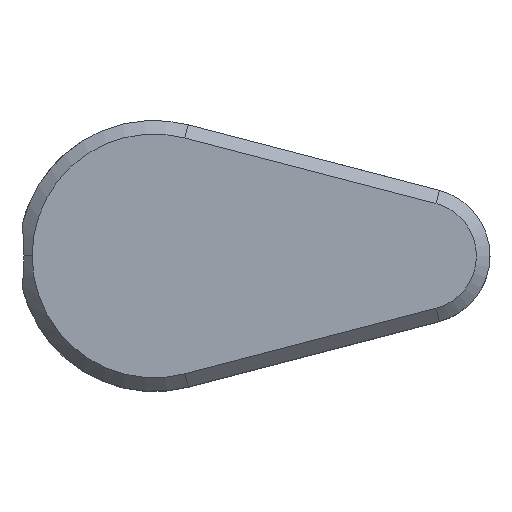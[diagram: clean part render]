
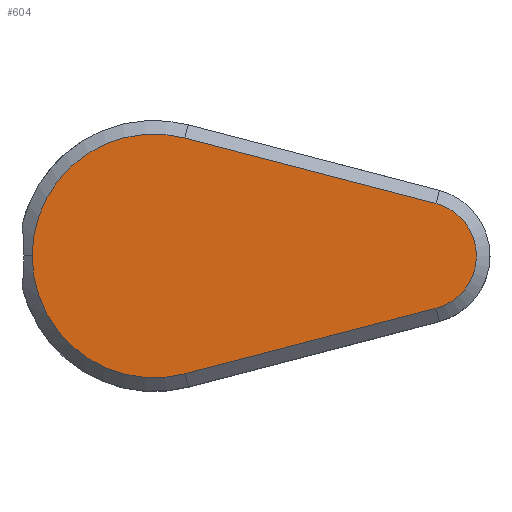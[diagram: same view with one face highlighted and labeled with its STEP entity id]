
A CAD part, top view. The second image highlights one B-rep face of the part: STEP entity #604.
In plain terms, the highlighted planar face has unit normal (0, 0, 1).
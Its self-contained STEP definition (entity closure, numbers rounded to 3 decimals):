
#75 = CIRCLE ( 'NONE', #257, 2. ) ;
#89 = LINE ( 'NONE', #468, #682 ) ;
#92 = VECTOR ( 'NONE', #708, 1000. ) ;
#100 = ORIENTED_EDGE ( 'NONE', *, *, #161, .T. ) ;
#122 = DIRECTION ( 'NONE',  ( 1., 0., 0. ) ) ;
#161 = EDGE_CURVE ( 'NONE', #908, #205, #1073, .T. ) ;
#201 = EDGE_LOOP ( 'NONE', ( #956, #1032, #865, #100, #869 ) ) ;
#202 = DIRECTION ( 'NONE',  ( 0., 0., 1. ) ) ;
#205 = VERTEX_POINT ( 'NONE', #904 ) ;
#256 = CARTESIAN_POINT ( 'NONE',  ( 9.9, 0., 7. ) ) ;
#257 = AXIS2_PLACEMENT_3D ( 'NONE', #256, #1208, #367 ) ;
#317 = CIRCLE ( 'NONE', #1013, 4.5 ) ;
#320 = DIRECTION ( 'NONE',  ( 0., 0., 1. ) ) ;
#367 = DIRECTION ( 'NONE',  ( 1., 0., 0. ) ) ;
#396 = DIRECTION ( 'NONE',  ( 1., 0., 0. ) ) ;
#447 = EDGE_CURVE ( 'NONE', #1101, #483, #75, .T. ) ;
#468 = CARTESIAN_POINT ( 'NONE',  ( 1.136, 4.354, 7. ) ) ;
#483 = VERTEX_POINT ( 'NONE', #654 ) ;
#495 = EDGE_CURVE ( 'NONE', #483, #576, #89, .T. ) ;
#543 = AXIS2_PLACEMENT_3D ( 'NONE', #1170, #320, #396 ) ;
#552 = EDGE_CURVE ( 'NONE', #205, #1101, #1067, .T. ) ;
#576 = VERTEX_POINT ( 'NONE', #1079 ) ;
#604 = ADVANCED_FACE ( 'NONE', ( #803 ), #1177, .T. ) ;
#613 = CARTESIAN_POINT ( 'NONE',  ( 10.405, -1.935, 7. ) ) ;
#635 = DIRECTION ( 'NONE',  ( 0., 0., 1. ) ) ;
#645 = CARTESIAN_POINT ( 'NONE',  ( 0., 0., 7. ) ) ;
#651 = EDGE_CURVE ( 'NONE', #576, #908, #317, .T. ) ;
#654 = CARTESIAN_POINT ( 'NONE',  ( 10.405, 1.935, 7. ) ) ;
#682 = VECTOR ( 'NONE', #958, 1000. ) ;
#708 = DIRECTION ( 'NONE',  ( 0.968, 0.253, 0. ) ) ;
#777 = AXIS2_PLACEMENT_3D ( 'NONE', #645, #635, #850 ) ;
#803 = FACE_OUTER_BOUND ( 'NONE', #201, .T. ) ;
#850 = DIRECTION ( 'NONE',  ( 1., 0., 0. ) ) ;
#865 = ORIENTED_EDGE ( 'NONE', *, *, #651, .T. ) ;
#866 = CARTESIAN_POINT ( 'NONE',  ( -4.5, 0., 7. ) ) ;
#869 = ORIENTED_EDGE ( 'NONE', *, *, #552, .T. ) ;
#870 = CARTESIAN_POINT ( 'NONE',  ( 1.136, -4.354, 7. ) ) ;
#904 = CARTESIAN_POINT ( 'NONE',  ( 1.136, -4.354, 7. ) ) ;
#908 = VERTEX_POINT ( 'NONE', #866 ) ;
#956 = ORIENTED_EDGE ( 'NONE', *, *, #447, .T. ) ;
#958 = DIRECTION ( 'NONE',  ( -0.968, 0.253, 0. ) ) ;
#1013 = AXIS2_PLACEMENT_3D ( 'NONE', #1059, #202, #122 ) ;
#1032 = ORIENTED_EDGE ( 'NONE', *, *, #495, .T. ) ;
#1059 = CARTESIAN_POINT ( 'NONE',  ( 0., 0., 7. ) ) ;
#1067 = LINE ( 'NONE', #870, #92 ) ;
#1073 = CIRCLE ( 'NONE', #777, 4.5 ) ;
#1079 = CARTESIAN_POINT ( 'NONE',  ( 1.136, 4.354, 7. ) ) ;
#1101 = VERTEX_POINT ( 'NONE', #613 ) ;
#1170 = CARTESIAN_POINT ( 'NONE',  ( 0., 0., 7. ) ) ;
#1177 = PLANE ( 'NONE',  #543 ) ;
#1208 = DIRECTION ( 'NONE',  ( 0., 0., 1. ) ) ;
